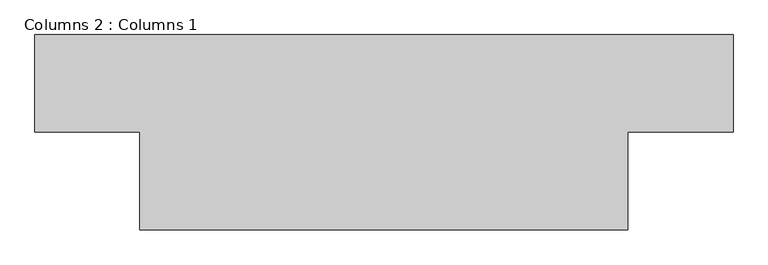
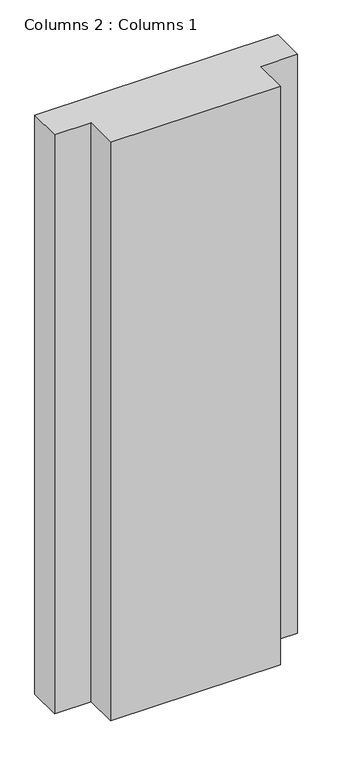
"""IFC4 building model written with IfcOpenShell, lengths in millimetres: column geometry, Columns 2 : Columns 1."""

from ifc_helpers import new_model, si_unit, origin, origin_with_axes, place, context, project, spatial, polyline, outline, extrude, source, transform, mapped, element, save


def columns_2_columns_1_0376ba0d(model_context):
    return source(origin(), model_context, "Body", "SweptSolid", [
        extrude(outline(polyline([(-36641.1085473, 87468.5591334), (-36641.1085473, 87265.3591334), (-36860.878199, 87265.3591334), (-36860.878199, 87062.1591334), (-37876.878199, 87062.1591334), (-37876.878199, 87265.3591334), (-38095.2585473, 87265.3591334), (-38095.2585473, 87468.5591334), (-36641.1085473, 87468.5591334)])), origin_with_axes(), (0.0, 0.0, 1.0), 3657.6),
    ])


if __name__ == "__main__":
    model = new_model("IFC4")
    model_context = context("Model", 3, world=origin())
    ifc_project = project(units=[si_unit("LENGTHUNIT", "METRE", prefix="MILLI")], contexts=[model_context])
    site = spatial("IfcSite", under=ifc_project)
    building = spatial("IfcBuilding", under=site)
    placement = place(None, origin())
    columns_2_columns_1_shape = columns_2_columns_1_0376ba0d(model_context)
    element("IfcColumn", 1, ObjectType="Columns 2 : Columns 1", at=placement, inside=building, context=model_context, shape_type="MappedRepresentation", body=[
        mapped(columns_2_columns_1_shape, transform((0.0, 0.0, 0.0), x_axis=(1.0, 0.0, 0.0), y_axis=(0.0, 1.0, 0.0), z_axis=(0.0, 0.0, 1.0))),
    ])
    save(model, "model.ifc")
